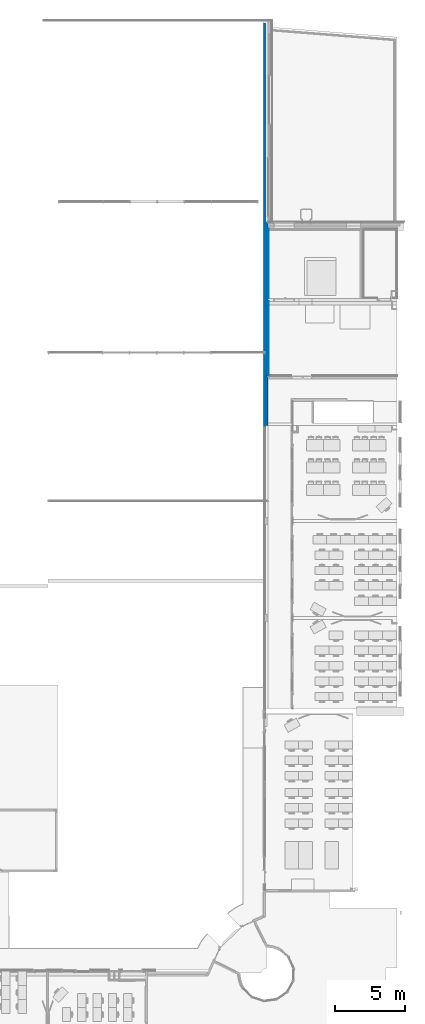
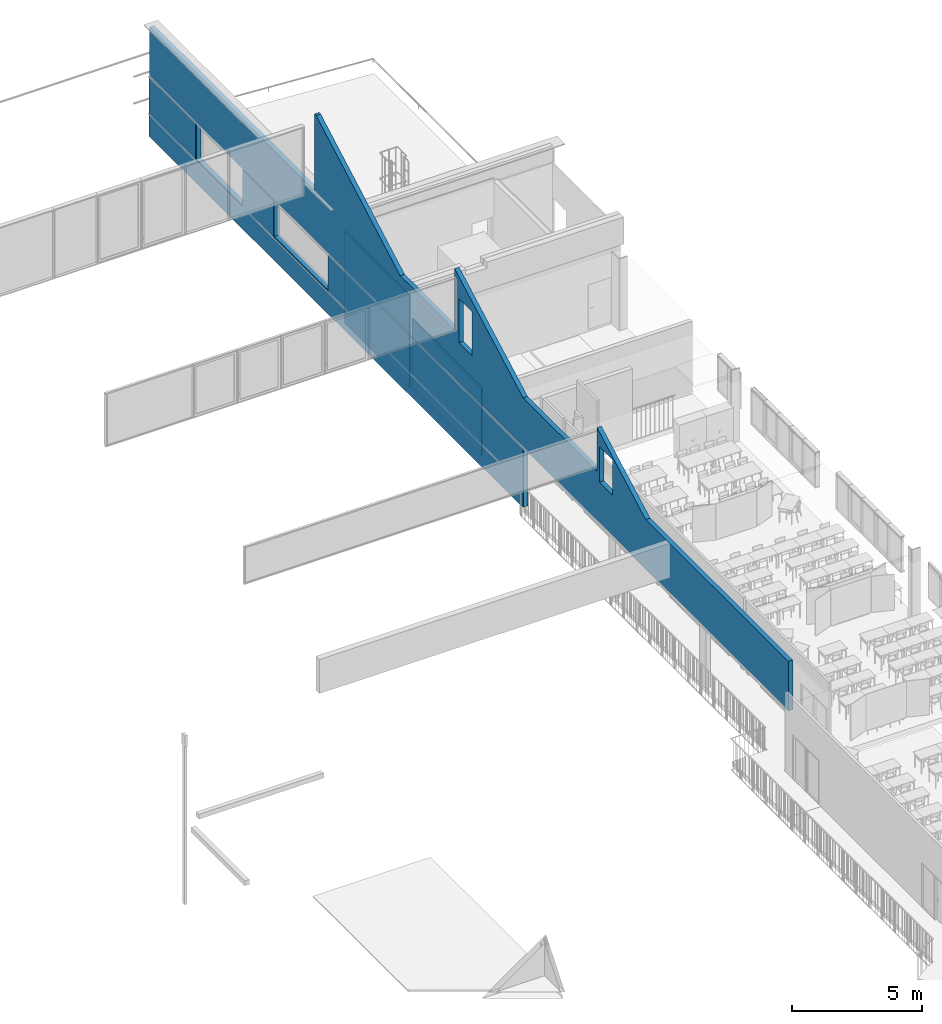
# One storey, part 24 of 44: 5 walls, 14 openings.
"""IFC2X3 building model written with IfcOpenShell, lengths in centimetres."""

from ifc_helpers import new_model, entity, si_unit, converted_unit, derived_unit, direction, frame, frame_2d, origin, origin_2d_with_axis, place, context, subcontext, project, spatial, polyline, rectangle, outline, extrude, clip, halfspace, bounded_halfspace, material, layer, layer_set, layer_usage, type_object, element, save


model = new_model("IFC2X3")

# Units and contexts
model_context = context("Model", 3, precision=0.001, world=origin(), true_north=direction((6.12303176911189e-17, 1.0)))
body_context = subcontext(model_context, "Body", "Model", "MODEL_VIEW")
ifc_project = project(units=[si_unit("LENGTHUNIT", "METRE", prefix="CENTI"), si_unit("AREAUNIT", "SQUARE_METRE"), si_unit("VOLUMEUNIT", "CUBIC_METRE"), converted_unit("PLANEANGLEUNIT", "DEGREE", entity("IfcRatioMeasure", 0.0174532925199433), si_unit("PLANEANGLEUNIT", "RADIAN"), dimensions=[0, 0, 0, 0, 0, 0, 0]), si_unit("MASSUNIT", "GRAM", prefix="KILO"), si_unit("TIMEUNIT", "SECOND"), si_unit("FREQUENCYUNIT", "HERTZ"), si_unit("THERMODYNAMICTEMPERATUREUNIT", "DEGREE_CELSIUS"), derived_unit("THERMALTRANSMITTANCEUNIT", [(si_unit("MASSUNIT", "GRAM", prefix="KILO"), 1), (si_unit("THERMODYNAMICTEMPERATUREUNIT", "KELVIN"), -1), (si_unit("TIMEUNIT", "SECOND"), -3)]), derived_unit("VOLUMETRICFLOWRATEUNIT", [(si_unit("LENGTHUNIT", "METRE"), 3), (si_unit("TIMEUNIT", "SECOND"), -1)]), si_unit("ELECTRICCURRENTUNIT", "AMPERE"), si_unit("ELECTRICVOLTAGEUNIT", "VOLT"), si_unit("POWERUNIT", "WATT"), si_unit("FORCEUNIT", "NEWTON", prefix="KILO"), si_unit("ILLUMINANCEUNIT", "LUX"), si_unit("LUMINOUSFLUXUNIT", "LUMEN"), si_unit("LUMINOUSINTENSITYUNIT", "CANDELA"), derived_unit("USERDEFINED", [(si_unit("MASSUNIT", "GRAM", prefix="KILO"), -1), (si_unit("LENGTHUNIT", "METRE"), -2), (si_unit("TIMEUNIT", "SECOND"), 3), (si_unit("LUMINOUSFLUXUNIT", "LUMEN"), 1)]), derived_unit("LINEARVELOCITYUNIT", [(si_unit("LENGTHUNIT", "METRE"), 1), (si_unit("TIMEUNIT", "SECOND"), -1)]), si_unit("PRESSUREUNIT", "PASCAL"), derived_unit("USERDEFINED", [(si_unit("LENGTHUNIT", "METRE"), -2), (si_unit("MASSUNIT", "GRAM", prefix="KILO"), 1), (si_unit("TIMEUNIT", "SECOND"), -2)])], contexts=[model_context])

# Site, building, storey
site_placement = place(None, frame((8.62739174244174, -249.285249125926, 0.0)))
site = spatial("IfcSite", under=ifc_project, at=site_placement, Name="Default", CompositionType="ELEMENT")
building_placement = place(site_placement, origin())
building = spatial("IfcBuilding", under=site, at=building_placement, CompositionType="ELEMENT")
storey_placement = place(building_placement, frame((0.0, 0.0, 343.0)))
storey = spatial("IfcBuildingStorey", under=building, at=storey_placement, Name="R+1", CompositionType="ELEMENT", Elevation=343.0)

# Wall, openings
ifc_material_1 = material(Name="Béton, coulé sur place, gris")
ifc_layer_1 = layer(ifc_material_1, 20.0)
ifc_layer_set_1 = layer_set([ifc_layer_1], Name="Mur de base:BET 20")
ifc_layer_usage_1 = layer_usage(ifc_layer_set_1, "AXIS2", "NEGATIVE", 10.0)
wall_type_1 = type_object("IfcWallType", Name="Mur de base:BET 20", PredefinedType="STANDARD", material=ifc_layer_set_1)
wall_1_placement = place(storey_placement, frame((3043.90482779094, 7560.98020806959, 0.0), z_axis=(0.0, 0.0, 1.0), x_axis=(0.0, -1.0, 0.0)))
wall_1 = element("IfcWallStandardCase", 1, at=wall_1_placement, inside=storey, type_object=wall_type_1, material=ifc_layer_usage_1, Name="Mur de base:BET 20", ObjectType="Mur de base:BET 20", context=body_context, shape_type="Clipping", body=[
    clip(clip(clip(clip(clip(extrude(rectangle(XDim=4916.0, YDim=19.9999999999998, at=frame_2d((2458.0, 8.5265128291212e-14), x_axis=(-1.0, 0.0))), origin(), (0.0, 0.0, 1.0), 872.071354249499), halfspace(frame((4916.0, 0.0, 512.0), z_axis=(0.138062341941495, 0.0, 0.990423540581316), x_axis=(0.0, 1.0, 0.0)), False)), halfspace(frame((3442.72072897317, 0.0, 717.371114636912), z_axis=(0.0747365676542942, 0.0, 0.997203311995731), x_axis=(0.0, 1.0, 0.0)), False)), halfspace(frame((2347.00297229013, 0.0, 799.490962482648), z_axis=(0.0740353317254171, 0.0, 0.997255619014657), x_axis=(0.0, 1.0, 0.0)), False)), halfspace(frame((2523.0, 0.0, 0.0), z_axis=(0.115396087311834, 0.0, -0.993319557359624), x_axis=(0.0, 1.0, 0.0)), False)), halfspace(frame((1268.00278674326, 0.0, 879.594934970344), z_axis=(-0.278436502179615, 0.0, 0.960454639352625), x_axis=(0.0, 1.0, 0.0)), False)),
])
opening_1_placement = place(wall_1_placement, origin())
element("IfcOpeningElement", 2, at=opening_1_placement, cuts=wall_1, Name="Mur de base:BET 20", ObjectType="Opening", context=body_context, shape_type="SweptSolid", body=[
    extrude(rectangle(XDim=207.499999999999, YDim=99.9999999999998, at=frame_2d((5.6843418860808e-14, 0.0), x_axis=(1.0, 0.0))), frame((2430.50129869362, -115.400000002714, 574.749999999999), z_axis=(0.0, 1.0, 0.0), x_axis=(0.0, 0.0, 1.0)), (0.0, 0.0, 1.0), 304.8),
])
opening_2_placement = place(wall_1_placement, origin())
element("IfcOpeningElement", 3, at=opening_2_placement, cuts=wall_1, Name="Mur de base:BET 20", ObjectType="Opening", context=body_context, shape_type="SweptSolid", body=[
    extrude(rectangle(XDim=168.5, YDim=99.9999999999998, at=frame_2d((5.6843418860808e-14, 0.0), x_axis=(1.0, 0.0))), frame((3510.79948032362, -115.399999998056, 555.25), z_axis=(0.0, 1.0, 0.0), x_axis=(0.0, 0.0, 1.0)), (0.0, 0.0, 1.0), 304.8),
])
opening_3_placement = place(wall_1_placement, origin())
element("IfcOpeningElement", 4, at=opening_3_placement, cuts=wall_1, Name="Mur de base:BET 20", ObjectType="Opening", context=body_context, shape_type="SweptSolid", body=[
    extrude(rectangle(XDim=169.999999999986, YDim=359.999999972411, at=frame_2d((0.0, -4.40536496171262e-13), x_axis=(1.0, 0.0))), frame((540.200009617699, -25.2399999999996, 193.0), z_axis=(0.0, 1.0, 0.0), x_axis=(0.0, 0.0, 1.0)), (0.0, 0.0, 1.0), 50.4799999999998),
])
opening_4_placement = place(wall_1_placement, origin())
element("IfcOpeningElement", 5, at=opening_4_placement, cuts=wall_1, Name="Mur de base:BET 20", ObjectType="Opening", context=body_context, shape_type="SweptSolid", body=[
    extrude(rectangle(XDim=169.999999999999, YDim=422.20000970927, at=origin_2d_with_axis()), frame((1169.10000478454, -25.2399999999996, 193.0), z_axis=(0.0, 1.0, 0.0), x_axis=(0.0, 0.0, 1.0)), (0.0, 0.0, 1.0), 50.4799999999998),
])
opening_5_placement = place(wall_1_placement, origin())
element("IfcOpeningElement", 6, at=opening_5_placement, cuts=wall_1, Name="Mur de base:BET 20", ObjectType="Opening", context=body_context, shape_type="SweptSolid", body=[
    extrude(outline(polyline([(-813.724641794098, -92.0476123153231), (1595.36917131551, -92.0476123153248), (-781.644529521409, 184.095224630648), (-813.724641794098, -92.0476123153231)])), frame((3320.66666661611, 10.0, 185.33333333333), z_axis=(0.0, -1.0, 0.0), x_axis=(0.993319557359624, 0.0, 0.115396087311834)), (0.0, 0.0, 1.0), 20.0),
])
opening_6_placement = place(wall_1_placement, origin())
element("IfcOpeningElement", 7, at=opening_6_placement, cuts=wall_1, Name="Mur de base:BET 20", ObjectType="Opening", context=body_context, shape_type="SweptSolid", body=[
    extrude(outline(polyline([(-858.384420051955, -50.5374953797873), (629.1400688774, -50.5374953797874), (229.244351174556, 101.074990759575), (-858.384420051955, -50.5374953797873)])), frame((4058.85853854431, 10.0, 580.457038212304), z_axis=(0.0, -1.0, 0.0), x_axis=(-0.990423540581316, 0.0, 0.138062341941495)), (0.0, 0.0, 1.0), 20.0),
])
opening_7_placement = place(wall_1_placement, origin())
element("IfcOpeningElement", 8, at=opening_7_placement, cuts=wall_1, Name="Mur de base:BET 20", ObjectType="Opening", context=body_context, shape_type="SweptSolid", body=[
    extrude(outline(polyline([(-408.746825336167, -113.020011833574), (690.043906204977, -113.020011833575), (142.798476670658, 134.263279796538), (-424.095557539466, 91.7767438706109), (-408.746825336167, -113.020011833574)])), frame((3026.67031321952, 10.0, 635.215519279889), z_axis=(0.0, -1.0, 0.0), x_axis=(-0.997203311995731, 0.0, 0.0747365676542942)), (0.0, 0.0, 1.0), 20.0),
])
opening_8_placement = place(wall_1_placement, origin())
element("IfcOpeningElement", 9, at=opening_8_placement, cuts=wall_1, Name="Mur de base:BET 20", ObjectType="Opening", context=body_context, shape_type="SweptSolid", body=[
    extrude(outline(polyline([(-364.413170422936, -151.1136515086), (717.556351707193, -151.1136515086), (32.5544779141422, 166.638976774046), (-385.697659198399, 135.588326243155), (-364.413170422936, -151.1136515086)])), frame((1972.40214112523, 10.0, 675.771474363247), z_axis=(0.0, -1.0, 0.0), x_axis=(-0.997255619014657, 0.0, 0.0740353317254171)), (0.0, 0.0, 1.0), 20.0),
])
opening_9_placement = place(wall_1_placement, origin())
element("IfcOpeningElement", 10, at=opening_9_placement, cuts=wall_1, Name="Mur de base:BET 20", ObjectType="Opening", context=body_context, shape_type="SweptSolid", body=[
    extrude(outline(polyline([(-474.187618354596, -117.686086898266), (846.023388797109, -117.686086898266), (-371.83577044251, 235.372173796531), (-474.187618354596, -117.686086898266)])), frame((845.335191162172, 10.0, 634.531644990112), z_axis=(0.0, -1.0, 0.0), x_axis=(-0.960454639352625, 0.0, -0.278436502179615)), (0.0, 0.0, 1.0), 20.0),
])

ifc_layer_usage_2 = layer_usage(ifc_layer_set_1, "AXIS2", "POSITIVE", -10.0)
wall_2_placement = place(storey_placement, frame((3043.9048278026, 5037.98020814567, 0.0), z_axis=(0.0, 0.0, 1.0), x_axis=(0.0, -1.0, 0.0)))
wall_2 = element("IfcWallStandardCase", 11, at=wall_2_placement, inside=storey, type_object=wall_type_1, material=ifc_layer_usage_2, Name="Mur de base:BET 20", ObjectType="Mur de base:BET 20", context=body_context, shape_type="Clipping", body=[
    clip(clip(extrude(rectangle(XDim=19.9999999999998, YDim=1422.00000000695, at=frame_2d((-355.999999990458, 1.86517468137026e-13), x_axis=(0.0, -1.0))), origin(), (0.0, 0.0, 1.0), 277.999999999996), bounded_halfspace(frame((0.0, -10.0, 278.0), z_axis=(1.0, 0.0, 0.0), x_axis=(0.0, 1.0, 0.0)), True, frame((0.0, -10.0, 278.0), z_axis=(1.0, 0.0, 0.0), x_axis=(0.0, 1.0, 0.0)), polyline([(0.0, 0.0), (-3.31747251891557e-09, -278.0), (20.0, -278.0), (20.0, 0.0), (0.0, 0.0)]))), bounded_halfspace(frame((0.0, 10.0, 278.0), z_axis=(0.0, 0.0, -1.0), x_axis=(0.0, 1.0, 0.0)), True, frame((0.0, 10.0, 278.0), z_axis=(0.0, 0.0, -1.0), x_axis=(0.0, 1.0, 0.0)), polyline([(0.0, 0.0), (-1.16700586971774e-08, 355.0), (-20.0, 355.0), (-20.0, 0.0), (0.0, 0.0)]))),
])
opening_10_placement = place(wall_2_placement, origin())
element("IfcOpeningElement", 12, at=opening_10_placement, cuts=wall_2, Name="Mur de base:BET 20", ObjectType="Opening", context=body_context, shape_type="SweptSolid", body=[
    extrude(rectangle(XDim=169.999999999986, YDim=359.999999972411, at=frame_2d((0.0, -4.40536496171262e-13), x_axis=(1.0, 0.0))), frame((-1982.79999030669, -25.2399999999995, 193.0), z_axis=(0.0, 1.0, 0.0), x_axis=(0.0, 0.0, 1.0)), (0.0, 0.0, 1.0), 50.4799999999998),
])
opening_11_placement = place(wall_2_placement, origin())
element("IfcOpeningElement", 13, at=opening_11_placement, cuts=wall_2, Name="Mur de base:BET 20", ObjectType="Opening", context=body_context, shape_type="SweptSolid", body=[
    extrude(rectangle(XDim=169.999999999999, YDim=422.20000970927, at=frame_2d((0.0, 8.66862137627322e-13), x_axis=(1.0, 0.0))), frame((-1353.89999513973, -25.2400000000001, 193.0), z_axis=(0.0, 1.0, 0.0), x_axis=(0.0, 0.0, 1.0)), (0.0, 0.0, 1.0), 50.4799999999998),
])

ifc_material_2 = material(Name="Panneau de grandes particules orientées")
ifc_layer_2 = layer(ifc_material_2, 3.5)
ifc_layer_set_2 = layer_set([ifc_layer_2], Name="Mur de base:ACOUST 7")
ifc_layer_usage_3 = layer_usage(ifc_layer_set_2, "AXIS2", "NEGATIVE", 1.75)
wall_type_2 = type_object("IfcWallType", Name="Mur de base:ACOUST 7", PredefinedType="STANDARD", material=ifc_layer_set_2)
wall_3_placement = place(storey_placement, frame((3032.1548278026, 4682.98020813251, 0.0), z_axis=(0.0, 0.0, 1.0), x_axis=(0.0, 1.0, 0.0)))
wall_3 = element("IfcWallStandardCase", 14, at=wall_3_placement, inside=storey, type_object=wall_type_2, material=ifc_layer_usage_3, Name="Mur de base:ACOUST 7", ObjectType="Mur de base:ACOUST 7", context=body_context, shape_type="SweptSolid", body=[
    extrude(rectangle(XDim=2878.99673772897, YDim=3.50000000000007, at=frame_2d((1439.49836886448, 8.88178419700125e-16), x_axis=(-1.0, 0.0))), origin(), (0.0, 0.0, 1.0), 277.999999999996),
])
opening_12_placement = place(wall_3_placement, origin())
element("IfcOpeningElement", 15, at=opening_12_placement, cuts=wall_3, Name="Mur de base:ACOUST 7", ObjectType="Opening", context=body_context, shape_type="SweptSolid", body=[
    extrude(rectangle(XDim=169.999999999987, YDim=359.999999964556, at=frame_2d((-2.8421709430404e-14, 0.0), x_axis=(1.0, 0.0))), frame((2337.79999031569, -1.75000000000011, 193.0), z_axis=(0.0, 1.0, 0.0), x_axis=(0.0, 0.0, -1.0)), (0.0, 0.0, 1.0), 3.50000000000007),
])
opening_13_placement = place(wall_3_placement, origin())
element("IfcOpeningElement", 16, at=opening_13_placement, cuts=wall_3, Name="Mur de base:ACOUST 7", ObjectType="Opening", context=body_context, shape_type="SweptSolid", body=[
    extrude(rectangle(XDim=169.999999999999, YDim=422.20000970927, at=frame_2d((0.0, 0.0), x_axis=(0.0, 1.0))), frame((1708.89999515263, -16.9900000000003, 193.0), z_axis=(0.0, 1.0, 0.0), x_axis=(-1.0, 0.0, 0.0)), (0.0, 0.0, 1.0), 33.9800000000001),
])
opening_14_placement = place(wall_3_placement, origin())
element("IfcOpeningElement", 17, at=opening_14_placement, cuts=wall_3, Name="Mur de base:ACOUST 7", ObjectType="Opening", context=body_context, shape_type="SweptSolid", body=[
    extrude(rectangle(XDim=169.999999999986, YDim=359.999999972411, at=frame_2d((4.40536496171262e-13, 0.0), x_axis=(0.0, 1.0))), frame((2337.7999903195, -16.9900000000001, 193.0), z_axis=(0.0, 1.0, 0.0), x_axis=(-1.0, 0.0, 0.0)), (0.0, 0.0, 1.0), 33.9800000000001),
])

# Walls
ifc_material_3 = material(Name="Laine minérale")
ifc_layer_3 = layer(ifc_material_3, 3.0)
ifc_layer_4 = layer(ifc_material_2, 2.0)
ifc_layer_set_3 = layer_set([ifc_layer_3, ifc_layer_4], Name="Mur de base:ACOUST 5")
ifc_layer_usage_4 = layer_usage(ifc_layer_set_3, "AXIS2", "NEGATIVE", 2.5)
wall_type_3 = type_object("IfcWallType", Name="Mur de base:ACOUST 5", PredefinedType="STANDARD", material=ifc_layer_set_3)
wall_4_placement = place(storey_placement, frame((3056.40482780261, 5594.9802081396, 0.0), z_axis=(0.0, 0.0, 1.0), x_axis=(0.0, 1.0, 0.0)))
element("IfcWallStandardCase", 18, at=wall_4_placement, inside=storey, type_object=wall_type_3, material=ifc_layer_usage_4, Name="Mur de base:ACOUST 5", ObjectType="Mur de base:ACOUST 5", context=body_context, shape_type="Clipping", body=[
    clip(extrude(rectangle(XDim=499.999999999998, YDim=4.99999999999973, at=frame_2d((249.999999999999, 0.0), x_axis=(-1.0, 0.0))), origin(), (0.0, 0.0, 1.0), 435.0), bounded_halfspace(frame((0.0, -2.50000000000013, 435.0), z_axis=(0.0, 0.0, -1.0), x_axis=(0.0, -1.0, 0.0)), True, frame((0.0, -2.50000000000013, 435.0), z_axis=(0.0, 0.0, -1.0), x_axis=(0.0, -1.0, 0.0)), polyline([(0.0, 0.0), (-5.0, 0.0), (-5.0, -500.0), (0.0, -500.0), (0.0, 0.0)]))),
])
ifc_layer_usage_5 = layer_usage(ifc_layer_set_3, "AXIS2", "NEGATIVE", 2.5)
wall_5_placement = place(storey_placement, frame((3056.40482780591, 5042.98020814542, 15.0), z_axis=(0.0, 0.0, 1.0), x_axis=(0.0, 1.0, 0.0)))
element("IfcWallStandardCase", 19, at=wall_5_placement, inside=storey, type_object=wall_type_3, material=ifc_layer_usage_5, Name="Mur de base:ACOUST 5", ObjectType="Mur de base:ACOUST 5", context=body_context, shape_type="SweptSolid", body=[
    extrude(rectangle(XDim=531.999999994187, YDim=4.99999999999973, at=frame_2d((265.999999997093, -3.99680288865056e-15), x_axis=(-1.0, 0.0))), origin(), (0.0, 0.0, 1.0), 325.0),
])

save(model, "model.ifc")
